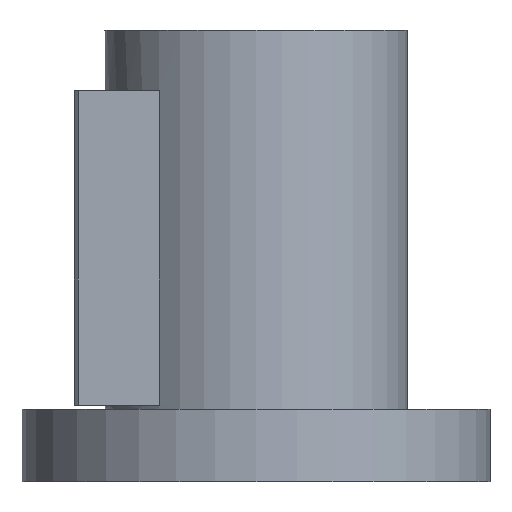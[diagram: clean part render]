
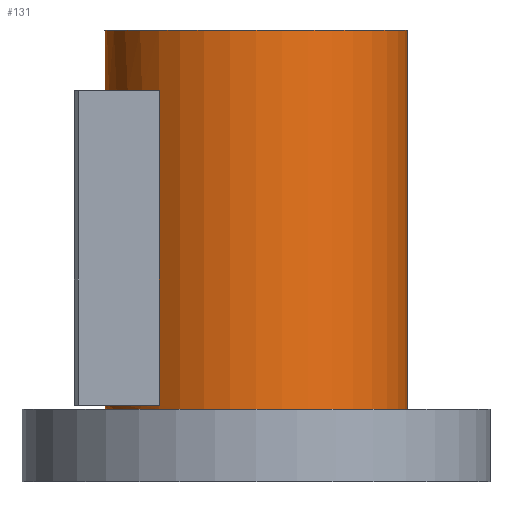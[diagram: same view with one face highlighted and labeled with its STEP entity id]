
A CAD part, front view. The second image highlights one B-rep face of the part: STEP entity #131.
In plain terms, the highlighted cylindrical face has radius 37.5 mm (diameter 75 mm), a full revolution.
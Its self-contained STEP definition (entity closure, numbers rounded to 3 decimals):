
#131=ADVANCED_FACE('',(#218,#219,#220),#161,.T.);
#161=CYLINDRICAL_SURFACE('',#550,37.5);
#174=LINE('',#752,#196);
#175=LINE('',#756,#197);
#196=VECTOR('',#612,1.);
#197=VECTOR('',#615,1.);
#218=FACE_BOUND('',#263,.T.);
#219=FACE_BOUND('',#264,.T.);
#220=FACE_BOUND('',#265,.T.);
#263=EDGE_LOOP('',(#325));
#264=EDGE_LOOP('',(#326));
#265=EDGE_LOOP('',(#327,#328,#329,#330));
#325=ORIENTED_EDGE('',*,*,#467,.F.);
#326=ORIENTED_EDGE('',*,*,#468,.T.);
#327=ORIENTED_EDGE('',*,*,#469,.F.);
#328=ORIENTED_EDGE('',*,*,#470,.F.);
#329=ORIENTED_EDGE('',*,*,#471,.T.);
#330=ORIENTED_EDGE('',*,*,#472,.F.);
#425=VERTEX_POINT('',#746);
#426=VERTEX_POINT('',#748);
#427=VERTEX_POINT('',#750);
#428=VERTEX_POINT('',#751);
#429=VERTEX_POINT('',#753);
#430=VERTEX_POINT('',#755);
#467=EDGE_CURVE('',#425,#425,#517,.T.);
#468=EDGE_CURVE('',#426,#426,#518,.T.);
#469=EDGE_CURVE('',#427,#428,#519,.T.);
#470=EDGE_CURVE('',#429,#427,#174,.T.);
#471=EDGE_CURVE('',#429,#430,#520,.T.);
#472=EDGE_CURVE('',#428,#430,#175,.T.);
#517=CIRCLE('',#546,37.5);
#518=CIRCLE('',#547,37.5);
#519=CIRCLE('',#548,37.5);
#520=CIRCLE('',#549,37.5);
#546=AXIS2_PLACEMENT_3D('',#745,#606,#607);
#547=AXIS2_PLACEMENT_3D('',#747,#608,#609);
#548=AXIS2_PLACEMENT_3D('',#749,#610,#611);
#549=AXIS2_PLACEMENT_3D('',#754,#613,#614);
#550=AXIS2_PLACEMENT_3D('',#757,#616,#617);
#606=DIRECTION('',(0.,0.,1.));
#607=DIRECTION('',(1.,0.,0.));
#608=DIRECTION('',(0.,0.,1.));
#609=DIRECTION('',(1.,0.,0.));
#610=DIRECTION('',(0.,0.,-1.));
#611=DIRECTION('',(-1.,0.,0.));
#612=DIRECTION('',(0.,0.,1.));
#613=DIRECTION('',(0.,0.,-1.));
#614=DIRECTION('',(-1.,0.,0.));
#615=DIRECTION('',(0.,0.,-1.));
#616=DIRECTION('',(0.,0.,-1.));
#617=DIRECTION('',(-1.,0.,0.));
#745=CARTESIAN_POINT('',(0.,0.,112.));
#746=CARTESIAN_POINT('',(37.5,0.,112.));
#747=CARTESIAN_POINT('',(0.,0.,18.));
#748=CARTESIAN_POINT('',(37.5,0.,18.));
#749=CARTESIAN_POINT('',(0.,0.,97.));
#750=CARTESIAN_POINT('',(-24.,-28.814,97.));
#751=CARTESIAN_POINT('',(-24.,28.814,97.));
#752=CARTESIAN_POINT('',(-24.,-28.814,112.));
#753=CARTESIAN_POINT('',(-24.,-28.814,19.));
#754=CARTESIAN_POINT('',(0.,0.,19.));
#755=CARTESIAN_POINT('',(-24.,28.814,19.));
#756=CARTESIAN_POINT('',(-24.,28.814,112.));
#757=CARTESIAN_POINT('',(0.,0.,112.));
